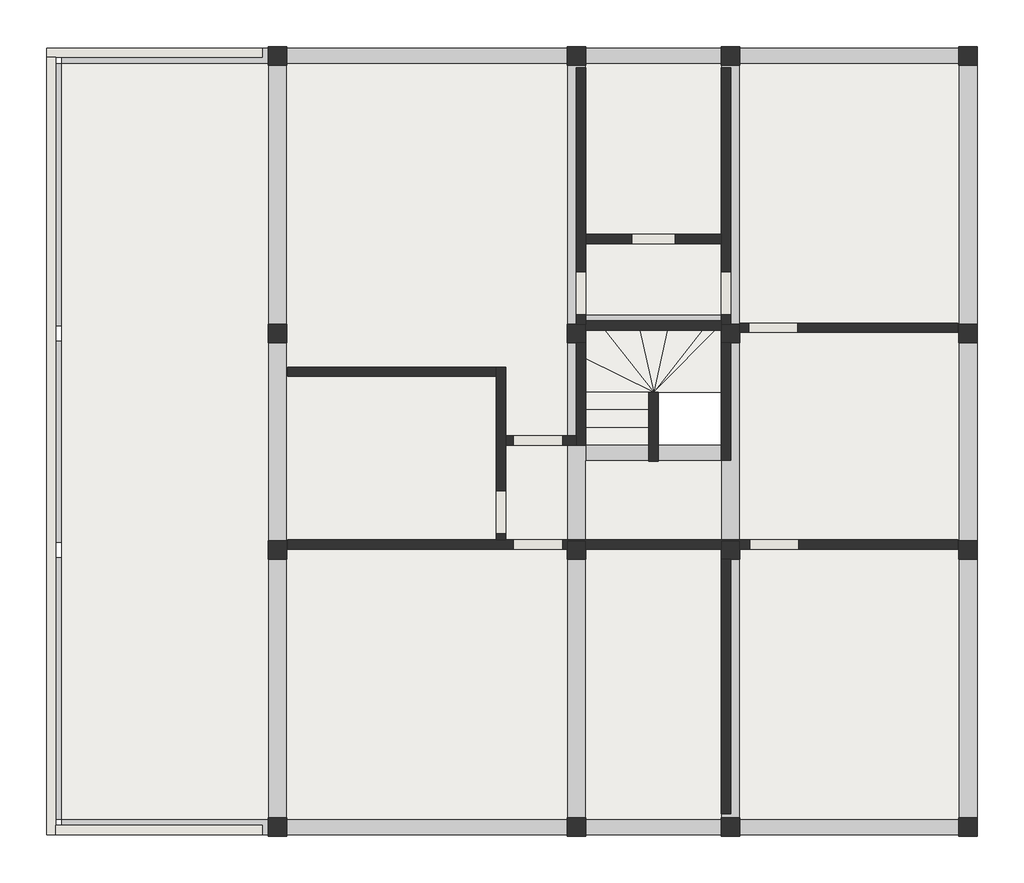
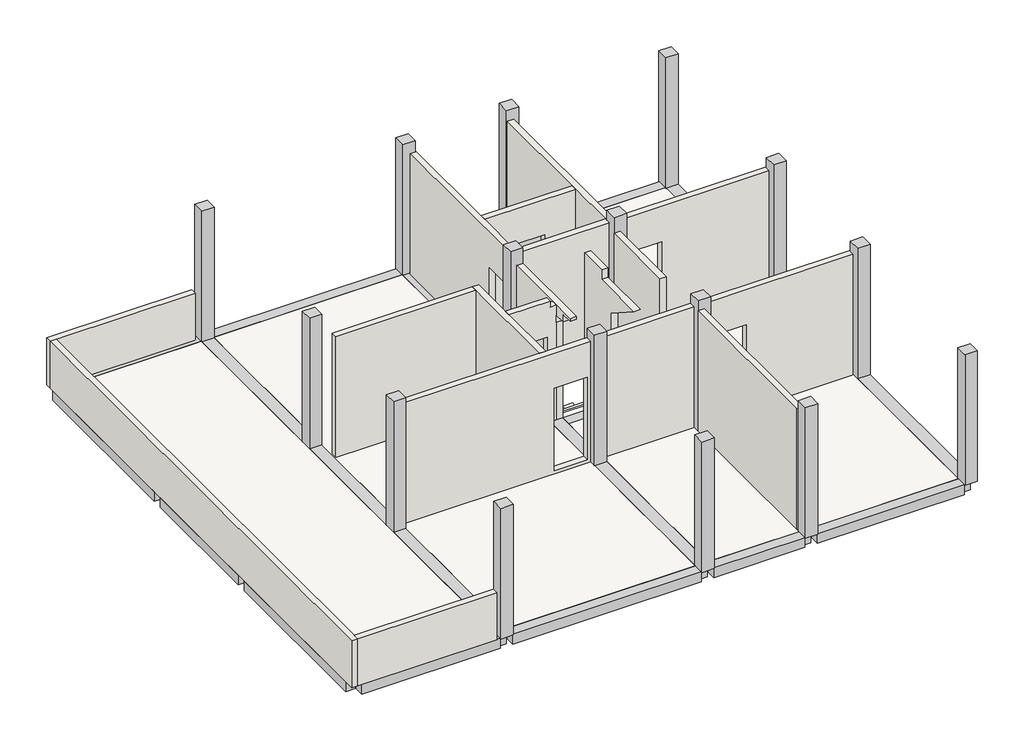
# One storey: 25 beams, 16 columns, 15 walls, 8 slabs.
"""IFC4 building model written with IfcOpenShell, lengths in millimetres."""

import ifcopenshell
import ifcopenshell.guid

model = None  # the IFC model being written
_history = None  # IfcOwnerHistory: only IFC2X3 demands one
_inside = {}  # id of a spatial element -> (the spatial element, [elements in it])
_under = {}  # id of a project, library or spatial element -> (it, [spatial elements below it])
_declared = {}  # id of a project -> (the project, [libraries it declares])
_typed = {}  # id of a type object -> (the type object, [elements of that type])
_made_of = {}  # id of a material, layer set ... -> (it, [elements and type objects made of it])


def new_model(schema):
    """Start an empty IFC model of exactly this schema.

    Asked for "IFC4X3", IfcOpenShell would pick the latest addendum, in which some entities
    have other attributes; the version numbers below select the first issue.
    IFC2X3 requires an IfcOwnerHistory on every rooted entity: one is made here for all.
    """
    global model, _history
    if schema == "IFC4X3":
        model = ifcopenshell.file(schema_version=(4, 3, 0, 0))
    else:
        model = ifcopenshell.file(schema=schema)
    _inside.clear()
    _under.clear()
    _declared.clear()
    _typed.clear()
    _made_of.clear()
    _history = None
    if model.schema == "IFC2X3":
        org = make("IfcOrganization", Name="unknown")
        user = make(
            "IfcPersonAndOrganization",
            ThePerson=make("IfcPerson", FamilyName="unknown"),
            TheOrganization=org,
        )
        app = make(
            "IfcApplication",
            ApplicationDeveloper=org,
            Version="unknown",
            ApplicationFullName="unknown",
            ApplicationIdentifier="unknown",
        )
        _history = make(
            "IfcOwnerHistory",
            OwningUser=user,
            OwningApplication=app,
            ChangeAction="ADDED",
            CreationDate=0,
        )
    return model


def make(cls, **values):
    """One entity of the class cls with the attributes given. An attribute that is None is left unset."""
    return model.create_entity(
        cls, **{name: value for name, value in values.items() if value is not None}
    )


def rooted(cls, **values):
    """An entity with a GlobalId (a new one), such as an element, a storey or a relation."""
    return make(cls, GlobalId=ifcopenshell.guid.new(), OwnerHistory=_history, **values)


def si_unit(unit_type, name, prefix=None):
    """IfcSIUnit, for example si_unit("LENGTHUNIT", "METRE", prefix="MILLI")."""
    return make("IfcSIUnit", UnitType=unit_type, Prefix=prefix, Name=name)


def assignment(units):
    """IfcUnitAssignment: the units of a project."""
    return None if units is None else make("IfcUnitAssignment", Units=units)


def point(xyz):
    """IfcCartesianPoint."""
    return None if xyz is None else make("IfcCartesianPoint", Coordinates=xyz)


def direction(xyz):
    """IfcDirection."""
    return None if xyz is None else make("IfcDirection", DirectionRatios=xyz)


def frame(location, z_axis=None, x_axis=None):
    """IfcAxis2Placement3D, a coordinate frame: its origin and axes. An axis left out is left unset."""
    return make(
        "IfcAxis2Placement3D",
        Location=point(location),
        Axis=direction(z_axis),
        RefDirection=direction(x_axis),
    )


def origin():
    """The frame at (0, 0, 0) with its axes left unset."""
    return frame((0.0, 0.0, 0.0))


def place(relative_to, where):
    """IfcLocalPlacement: puts the frame where relative to a parent placement (None: the world)."""
    return make(
        "IfcLocalPlacement", PlacementRelTo=relative_to, RelativePlacement=where
    )


def context(
    kind, dimensions, precision=None, world=None, true_north=None, identifier=None
):
    """IfcGeometricRepresentationContext, for example the 3D "Model" context."""
    return make(
        "IfcGeometricRepresentationContext",
        ContextIdentifier=identifier,
        ContextType=kind,
        CoordinateSpaceDimension=dimensions,
        Precision=precision,
        WorldCoordinateSystem=world,
        TrueNorth=true_north,
    )


def project(units=None, contexts=None):
    """IfcProject with its units and contexts."""
    return rooted(
        "IfcProject",
        Name="project",
        RepresentationContexts=contexts,
        UnitsInContext=assignment(units),
    )


def spatial(cls, under=None, at=None, **own):
    """A site, building, storey or space (cls), placed at a placement, below another one or the project."""
    s = rooted(cls, ObjectPlacement=at, **own)
    if under is not None:
        _under.setdefault(under.id(), (under, []))[1].append(s)
    return s


def polyline(points):
    """IfcPolyline through the points."""
    return make("IfcPolyline", Points=[point(p) for p in points])


def outline(outer, holes=None, kind="AREA"):
    """IfcArbitraryClosedProfileDef: a profile drawn as a closed curve; with holes, ...WithVoids."""
    if holes is None:
        return make("IfcArbitraryClosedProfileDef", ProfileType=kind, OuterCurve=outer)
    return make(
        "IfcArbitraryProfileDefWithVoids",
        ProfileType=kind,
        OuterCurve=outer,
        InnerCurves=holes,
    )


def extrude(swept, where, along, depth):
    """IfcExtrudedAreaSolid: the profile swept, set in the frame where, extruded along a direction by depth."""
    return make(
        "IfcExtrudedAreaSolid",
        SweptArea=swept,
        Position=where,
        ExtrudedDirection=direction(along),
        Depth=depth,
    )


def faces_of(points, faces, orient=None, outer=None):
    """IfcFace entities. A face is a list of loops; a loop is a list of indices into points, from 0.

    orient and outer hold one flag for each loop. By default every Orientation is true, the
    first loop of a face is its IfcFaceOuterBound and the others are IfcFaceBound.
    """
    made = []
    for i, loops in enumerate(faces):
        bounds = []
        for j, loop in enumerate(loops):
            is_outer = j == 0 if outer is None else outer[i][j]
            bounds.append(
                make(
                    "IfcFaceOuterBound" if is_outer else "IfcFaceBound",
                    Bound=make("IfcPolyLoop", Polygon=[points[k] for k in loop]),
                    Orientation=True if orient is None else orient[i][j],
                )
            )
        made.append(make("IfcFace", Bounds=bounds))
    return made


def faceted_brep(points, faces, orient=None, outer=None, voids=None):
    """IfcFacetedBrep: a solid bounded by flat faces; with voids (closed shells), ...WithVoids."""
    shared = [point(p) for p in points]
    hull = make("IfcClosedShell", CfsFaces=faces_of(shared, faces, orient, outer))
    if voids is None:
        return make("IfcFacetedBrep", Outer=hull)
    return make(
        "IfcFacetedBrepWithVoids",
        Outer=hull,
        Voids=[
            make(cls, CfsFaces=faces_of(shared, fs, o, b)) for cls, fs, o, b in voids
        ],
    )


def shape(context_of_items, identifier, shape_type, items):
    """IfcShapeRepresentation: the items that make up one representation, for example the "Body"."""
    return make(
        "IfcShapeRepresentation",
        ContextOfItems=context_of_items,
        RepresentationIdentifier=identifier,
        RepresentationType=shape_type,
        Items=items,
    )


def source(mapping_origin, context_of_items, identifier, shape_type, items):
    """IfcRepresentationMap: a shape defined once, which mapped items show again and again."""
    return make(
        "IfcRepresentationMap",
        MappingOrigin=mapping_origin,
        MappedRepresentation=shape(context_of_items, identifier, shape_type, items),
    )


def transform(
    local_origin,
    x_axis=None,
    y_axis=None,
    z_axis=None,
    scale=None,
    scale2=None,
    scale3=None,
    uniform=True,
):
    """IfcCartesianTransformationOperator3D, or its non-uniform kind. x_axis, y_axis, z_axis: its Axis1, 2, 3."""
    if uniform:
        return make(
            "IfcCartesianTransformationOperator3D",
            Axis1=direction(x_axis),
            Axis2=direction(y_axis),
            LocalOrigin=point(local_origin),
            Scale=scale,
            Axis3=direction(z_axis),
        )
    return make(
        "IfcCartesianTransformationOperator3DnonUniform",
        Axis1=direction(x_axis),
        Axis2=direction(y_axis),
        LocalOrigin=point(local_origin),
        Scale=scale,
        Axis3=direction(z_axis),
        Scale2=scale2,
        Scale3=scale3,
    )


def mapped(mapping_source, mapping_target):
    """IfcMappedItem: shows the shape of a source again, moved by a transform."""
    return make(
        "IfcMappedItem", MappingSource=mapping_source, MappingTarget=mapping_target
    )


def made_of(thing, what):
    """Note that an element or type object is made of a material, layer set ...; save() writes the relation."""
    if what is not None:
        _made_of.setdefault(what.id(), (what, []))[1].append(thing)
    return thing


def element(
    cls,
    number,
    at=None,
    inside=None,
    cuts=None,
    type_object=None,
    material=None,
    context=None,
    identifier="Body",
    shape_type=None,
    held_by="IfcProductDefinitionShape",
    body=None,
    shapes=None,
    **own,
):
    """One element of the class cls, such as IfcWall. Its Tag is "e" and its number.

    at: its placement. inside: the storey or other place that contains it. cuts: it is an
    opening in that element (IfcRelVoidsElement). A single representation is given by context,
    identifier, shape_type and body (its items); several are given by shapes. held_by: the class
    of the entity that holds the representations. save() writes the other relations.
    """
    e = rooted(cls, Tag="e%d" % number, ObjectPlacement=at, **own)
    if body is not None:
        shapes = [shape(context, identifier, shape_type, body)]
    if shapes is not None:
        e.Representation = make(held_by, Representations=shapes)
    if inside is not None:
        _inside.setdefault(inside.id(), (inside, []))[1].append(e)
    if cuts is not None:
        rooted(
            "IfcRelVoidsElement", RelatingBuildingElement=cuts, RelatedOpeningElement=e
        )
    if type_object is not None:
        _typed.setdefault(type_object.id(), (type_object, []))[1].append(e)
    return made_of(e, material)


def aggregate(whole, parts):
    """IfcRelAggregates: a whole, such as a stair, and the parts it consists of."""
    return rooted("IfcRelAggregates", RelatingObject=whole, RelatedObjects=parts)


def save(model, path):
    """Write the relations noted so far, then the file.

    IfcRelAggregates (storeys below a building ...), IfcRelContainedInSpatialStructure (elements
    in a storey), IfcRelDefinesByType, IfcRelAssociatesMaterial and IfcRelDeclares: one each for
    every whole, place, type object, material and project.
    """
    for whole, parts in _under.values():
        aggregate(whole, parts)
    for where, things in _inside.values():
        rooted(
            "IfcRelContainedInSpatialStructure",
            RelatedElements=things,
            RelatingStructure=where,
        )
    for kind, things in _typed.values():
        rooted("IfcRelDefinesByType", RelatedObjects=things, RelatingType=kind)
    for what, things in _made_of.values():
        rooted("IfcRelAssociatesMaterial", RelatedObjects=things, RelatingMaterial=what)
    for by, libraries in _declared.values():
        rooted("IfcRelDeclares", RelatingContext=by, RelatedDefinitions=libraries)
    model.write(path)


def slab_d0d15f66(model_context):
    return source(origin(), model_context, "Body", "SweptSolid", [
        extrude(outline(polyline([(9215.0, 7645.5172414), (9215.0, 8185.5172414), (10314.0698338, 7644.0656057), (9215.0, 7645.5172414)])), frame((0.0, 0.0, 2605.0811641), z_axis=(0.0, 0.0, 1.0), x_axis=(1.0, 0.0, 0.0)), (0.0, 0.0, 1.0), 185.0),
        extrude(outline(polyline([(9522.5030455, 8653.9378049), (10314.0698338, 7644.0656057), (9215.0, 8185.5172414), (9215.0, 8653.9378049), (9522.5030455, 8653.9378049)])), frame((0.0, 0.0, 2420.0811641), z_axis=(0.0, 0.0, 1.0), x_axis=(1.0, 0.0, 0.0)), (0.0, 0.0, 1.0), 185.0),
        extrude(outline(polyline([(9522.5030455, 8653.9378049), (10091.9400865, 8653.9378049), (10314.0698338, 7644.0656057), (9522.5030455, 8653.9378049)])), frame((0.0, 0.0, 2235.0811641), z_axis=(0.0, 0.0, 1.0), x_axis=(1.0, 0.0, 0.0)), (0.0, 0.0, 1.0), 185.0),
        extrude(outline(polyline([(10091.9400865, 8653.9378049), (10538.0599135, 8653.9378049), (10314.0698338, 7644.0656057), (10091.9400865, 8653.9378049)])), frame((0.0, 0.0, 2050.0811641), z_axis=(0.0, 0.0, 1.0), x_axis=(1.0, 0.0, 0.0)), (0.0, 0.0, 1.0), 185.0),
        extrude(outline(polyline([(10538.0599135, 8653.9378049), (11107.4969545, 8653.9378049), (10314.0698338, 7644.0656057), (10538.0599135, 8653.9378049)])), frame((0.0, 0.0, 1865.0811641), z_axis=(0.0, 0.0, 1.0), x_axis=(1.0, 0.0, 0.0)), (0.0, 0.0, 1.0), 185.0),
        extrude(outline(polyline([(11415.0, 8653.9378049), (11415.0, 8183.9378049), (10314.0698338, 7644.0656057), (11107.4969545, 8653.9378049), (11415.0, 8653.9378049)])), frame((0.0, 0.0, 1495.0811641), z_axis=(0.0, 0.0, 1.0), x_axis=(1.0, 0.0, 0.0)), (0.0, 0.0, 1.0), 370.0),
        extrude(outline(polyline([(11415.0, 8183.9378049), (11415.0, 7644.0656057), (10314.0698338, 7644.0656057), (11415.0, 8183.9378049)])), frame((0.0, 0.0, 1495.0811641), z_axis=(0.0, 0.0, 1.0), x_axis=(1.0, 0.0, 0.0)), (0.0, 0.0, 1.0), 185.0),
    ])


def losa_escalera_3_losa_escalera_2_57cf70de(model_context):
    return source(origin(), model_context, "Body", "SweptSolid", [
        extrude(outline(polyline([(11415.0, 7644.0656057), (10314.0698338, 7644.0656057), (11415.0, 8750.0), (11415.0, 7644.0656057)])), frame((0.0, 0.0, 1309.8801816), z_axis=(0.0, 0.0, 1.0), x_axis=(1.0, 0.0, 0.0)), (0.0, 0.0, 1.0), 187.6550161),
    ])


def escalera_tramo_2_escalera_tramo_2_fa0a149b(model_context):
    return source(origin(), model_context, "Body", "SweptSolid", [
        extrude(outline(polyline([(7644.0656057, 2975.0811641), (7644.0656057, 2605.0811641), (6790.0, 3199.3498377), (6790.0, 3345.0811641), (7074.0656057, 3345.0811641), (7074.0656057, 3160.0811641), (7359.0656057, 3160.0811641), (7359.0656057, 2975.0811641), (7644.0656057, 2975.0811641)])), frame((9215.0, 0.0, 0.0), z_axis=(1.0, 0.0, 0.0), x_axis=(0.0, 1.0, 0.0)), (0.0, 0.0, 1.0), 1025.0),
    ])


model = new_model("IFC4")

# Units and contexts
model_context = context("Model", 3, world=origin())
ifc_project = project(units=[si_unit("LENGTHUNIT", "METRE", prefix="MILLI")], contexts=[model_context])

# Site, building, storey
site = spatial("IfcSite", under=ifc_project)
building = spatial("IfcBuilding", under=site)
storey = spatial("IfcBuildingStorey", under=building, Name="02.ES.PLANTA PRIMERA", Elevation=3450.0)

# Beams
placement = place(None, origin())
element("IfcBeam", 1, ObjectType="Hormigón-Viga rectangular : 250 x 250 mm", at=placement, inside=storey, context=model_context, shape_type="SweptSolid", body=[
    extrude(outline(polyline([(475.0, 4965.0610844), (725.0, 4965.0610844), (725.0, 725.0), (475.0, 725.0), (475.0, 4965.0610844)])), frame((0.0, 0.0, 3200.0), z_axis=(0.0, 0.0, 1.0), x_axis=(1.0, 0.0, 0.0)), (0.0, 0.0, 1.0), 250.0),
])
element("IfcBeam", 2, ObjectType="Hormigón-Viga rectangular : 250 x 250 mm", at=placement, inside=storey, context=model_context, shape_type="SweptSolid", body=[
    extrude(outline(polyline([(475.0, 8475.0), (725.0, 8475.0), (725.0, 5215.0610844), (475.0, 5215.0610844), (475.0, 8475.0)])), frame((0.0, 0.0, 3200.0), z_axis=(0.0, 0.0, 1.0), x_axis=(1.0, 0.0, 0.0)), (0.0, 0.0, 1.0), 250.0),
])
element("IfcBeam", 3, ObjectType="Hormigón-Viga rectangular : 250 x 250 mm", at=placement, inside=storey, context=model_context, shape_type="SweptSolid", body=[
    extrude(outline(polyline([(475.0, 12975.0), (725.0, 12975.0), (725.0, 8725.0), (475.0, 8725.0), (475.0, 12975.0)])), frame((0.0, 0.0, 3200.0), z_axis=(0.0, 0.0, 1.0), x_axis=(1.0, 0.0, 0.0)), (0.0, 0.0, 1.0), 250.0),
])
element("IfcBeam", 4, ObjectType="Hormigón-Viga rectangular : 250 x 250 mm", at=placement, inside=storey, context=model_context, shape_type="SweptSolid", body=[
    extrude(outline(polyline([(4065.0, 13225.0), (4065.0, 12975.0), (725.0, 12975.0), (725.0, 13225.0), (4065.0, 13225.0)])), frame((0.0, 0.0, 3200.0), z_axis=(0.0, 0.0, 1.0), x_axis=(1.0, 0.0, 0.0)), (0.0, 0.0, 1.0), 250.0),
])
element("IfcBeam", 5, ObjectType="Hormigón-Viga rectangular : 250 x 250 mm", at=placement, inside=storey, context=model_context, shape_type="SweptSolid", body=[
    extrude(outline(polyline([(8915.0, 13225.0), (8915.0, 12975.0), (4365.0, 12975.0), (4365.0, 13225.0), (8915.0, 13225.0)])), frame((0.0, 0.0, 3200.0), z_axis=(0.0, 0.0, 1.0), x_axis=(1.0, 0.0, 0.0)), (0.0, 0.0, 1.0), 250.0),
])
element("IfcBeam", 6, ObjectType="Hormigón-Viga rectangular : 250 x 250 mm", at=placement, inside=storey, context=model_context, shape_type="SweptSolid", body=[
    extrude(outline(polyline([(11415.0, 13225.0), (11415.0, 12975.0), (9215.0, 12975.0), (9215.0, 13225.0), (11415.0, 13225.0)])), frame((0.0, 0.0, 3200.0), z_axis=(0.0, 0.0, 1.0), x_axis=(1.0, 0.0, 0.0)), (0.0, 0.0, 1.0), 250.0),
])
element("IfcBeam", 7, ObjectType="Hormigón-Viga rectangular : 250 x 250 mm", at=placement, inside=storey, context=model_context, shape_type="SweptSolid", body=[
    extrude(outline(polyline([(15265.0, 13225.0), (15265.0, 12975.0), (11715.0, 12975.0), (11715.0, 13225.0), (15265.0, 13225.0)])), frame((0.0, 0.0, 3200.0), z_axis=(0.0, 0.0, 1.0), x_axis=(1.0, 0.0, 0.0)), (0.0, 0.0, 1.0), 250.0),
])
element("IfcBeam", 8, ObjectType="Hormigón-Viga rectangular : 250 x 250 mm", at=placement, inside=storey, context=model_context, shape_type="SweptSolid", body=[
    extrude(outline(polyline([(4065.0, 725.0), (4065.0, 475.0), (725.0, 475.0), (725.0, 725.0), (4065.0, 725.0)])), frame((0.0, 0.0, 3200.0), z_axis=(0.0, 0.0, 1.0), x_axis=(1.0, 0.0, 0.0)), (0.0, 0.0, 1.0), 250.0),
])
element("IfcBeam", 9, ObjectType="Hormigón-Viga rectangular : 250 x 250 mm", at=placement, inside=storey, context=model_context, shape_type="SweptSolid", body=[
    extrude(outline(polyline([(8915.0, 725.0), (8915.0, 475.0), (4365.0, 475.0), (4365.0, 725.0), (8915.0, 725.0)])), frame((0.0, 0.0, 3200.0), z_axis=(0.0, 0.0, 1.0), x_axis=(1.0, 0.0, 0.0)), (0.0, 0.0, 1.0), 250.0),
])
element("IfcBeam", 10, ObjectType="Hormigón-Viga rectangular : 250 x 250 mm", at=placement, inside=storey, context=model_context, shape_type="SweptSolid", body=[
    extrude(outline(polyline([(11415.0, 725.0), (11415.0, 475.0), (9215.0, 475.0), (9215.0, 725.0), (11415.0, 725.0)])), frame((0.0, 0.0, 3200.0), z_axis=(0.0, 0.0, 1.0), x_axis=(1.0, 0.0, 0.0)), (0.0, 0.0, 1.0), 250.0),
])
element("IfcBeam", 11, ObjectType="Hormigón-Viga rectangular : 250 x 250 mm", at=placement, inside=storey, context=model_context, shape_type="SweptSolid", body=[
    extrude(outline(polyline([(15265.0, 725.0), (15265.0, 475.0), (11715.0, 475.0), (11715.0, 725.0), (15265.0, 725.0)])), frame((0.0, 0.0, 3200.0), z_axis=(0.0, 0.0, 1.0), x_axis=(1.0, 0.0, 0.0)), (0.0, 0.0, 1.0), 250.0),
])
element("IfcBeam", 12, ObjectType="Hormigón-Viga rectangular : 250 x 250 mm", at=placement, inside=storey, context=model_context, shape_type="Brep", body=[
    faceted_brep([(9215.0, 6790.0, 3450.0), (9215.0, 6540.0, 3450.0), (10240.0, 6540.0, 3450.0), (10390.0, 6540.0, 3450.0), (11415.0, 6540.0, 3450.0), (11415.0, 6790.0, 3450.0), (10390.0, 6790.0, 3450.0), (10240.0, 6790.0, 3450.0), (9215.0, 6540.0, 3200.0), (10240.0, 6540.0, 3200.0), (10390.0, 6540.0, 3200.0), (11415.0, 6540.0, 3200.0), (9215.0, 6790.0, 3200.0), (10240.0, 6790.0, 3200.0), (10390.0, 6790.0, 3200.0), (11415.0, 6790.0, 3200.0)], [[[0, 1, 2, 3, 4, 5, 6, 7]], [[1, 8, 9, 10, 11, 4, 3, 2]], [[8, 12, 13, 14, 15, 11, 10, 9]], [[12, 0, 7, 6, 5, 15, 14, 13]], [[1, 0, 12, 8]], [[5, 4, 11, 15]]]),
])
element("IfcBeam", 13, ObjectType="Hormigón-Viga rectangular : 250 x 250 mm", at=placement, inside=storey, context=model_context, shape_type="Brep", body=[
    faceted_brep([(11415.0, 8655.0, 3450.0), (11415.0, 8750.0, 3450.0), (11415.0, 8905.0, 3450.0), (9215.0, 8905.0, 3450.0), (9215.0, 8750.0, 3450.0), (9215.0, 8655.0, 3450.0), (11415.0, 8655.0, 3200.0), (9215.0, 8655.0, 3200.0), (11415.0, 8905.0, 3200.0), (9215.0, 8905.0, 3200.0)], [[[0, 1, 2, 3, 4, 5]], [[6, 0, 5, 7]], [[8, 6, 7, 9]], [[2, 8, 9, 3]], [[3, 9, 7, 5, 4]], [[2, 1, 0, 6, 8]]]),
])
element("IfcBeam", 14, ObjectType="Hormigón-Viga rectangular : 300 x 400 mm", at=placement, inside=storey, context=model_context, shape_type="Brep", body=[
    faceted_brep([(4365.0, 4940.0610844, 3450.0), (4065.0, 4940.0610844, 3450.0), (4065.0, 750.0, 3450.0), (4365.0, 750.0, 3450.0), (4365.0, 4940.0610844, 3050.0), (4365.0, 750.0, 3050.0), (4365.0, 815.0, 3050.0), (4065.0, 4940.0610844, 3050.0), (4065.0, 750.0, 3050.0), (4065.0, 815.0, 3050.0)], [[[0, 1, 2, 3]], [[4, 0, 3, 5, 6]], [[7, 4, 6, 5, 8, 9]], [[1, 7, 9, 8, 2]], [[1, 0, 4, 7]], [[3, 2, 8, 5]]]),
])
element("IfcBeam", 15, ObjectType="Hormigón-Viga rectangular : 300 x 400 mm", at=placement, inside=storey, context=model_context, shape_type="SweptSolid", body=[
    extrude(outline(polyline([(4065.0, 8450.0), (4365.0, 8450.0), (4365.0, 5240.0610844), (4065.0, 5240.0610844), (4065.0, 8450.0)])), frame((0.0, 0.0, 3050.0), z_axis=(0.0, 0.0, 1.0), x_axis=(1.0, 0.0, 0.0)), (0.0, 0.0, 1.0), 400.0),
])
element("IfcBeam", 16, ObjectType="Hormigón-Viga rectangular : 300 x 400 mm", at=placement, inside=storey, context=model_context, shape_type="SweptSolid", body=[
    extrude(outline(polyline([(4065.0, 12950.0), (4365.0, 12950.0), (4365.0, 8750.0), (4065.0, 8750.0), (4065.0, 12950.0)])), frame((0.0, 0.0, 3050.0), z_axis=(0.0, 0.0, 1.0), x_axis=(1.0, 0.0, 0.0)), (0.0, 0.0, 1.0), 400.0),
])
element("IfcBeam", 17, ObjectType="Hormigón-Viga rectangular : 300 x 400 mm", at=placement, inside=storey, context=model_context, shape_type="Brep", body=[
    faceted_brep([(9215.0, 4940.0610844, 3450.0), (8915.0, 4940.0610844, 3450.0), (8915.0, 750.0, 3450.0), (9215.0, 750.0, 3450.0), (9215.0, 4940.0610844, 3050.0), (9215.0, 750.0, 3050.0), (9215.0, 815.0, 3050.0), (8915.0, 4940.0610844, 3050.0), (9080.0, 4940.0610844, 3050.0), (8915.0, 750.0, 3050.0)], [[[0, 1, 2, 3]], [[4, 0, 3, 5, 6]], [[7, 8, 4, 6, 5, 9]], [[1, 7, 9, 2]], [[1, 0, 4, 8, 7]], [[3, 2, 9, 5]]]),
])
element("IfcBeam", 18, ObjectType="Hormigón-Viga rectangular : 300 x 400 mm", at=placement, inside=storey, context=model_context, shape_type="Brep", body=[
    faceted_brep([(9215.0, 8450.0, 3450.0), (8915.0, 8450.0, 3450.0), (8915.0, 5240.0610844, 3450.0), (9215.0, 5240.0610844, 3450.0), (9215.0, 6540.0, 3450.0), (9215.0, 6790.0, 3450.0), (9215.0, 8450.0, 3050.0), (9215.0, 5240.0610844, 3050.0), (8915.0, 8450.0, 3050.0), (9080.0, 8450.0, 3050.0), (9080.0, 5240.0610844, 3050.0), (8915.0, 5240.0610844, 3050.0)], [[[0, 1, 2, 3, 4, 5]], [[6, 0, 5, 4, 3, 7]], [[8, 9, 6, 7, 10, 11]], [[1, 8, 11, 2]], [[1, 0, 6, 9, 8]], [[3, 2, 11, 10, 7]]]),
])
element("IfcBeam", 19, ObjectType="Hormigón-Viga rectangular : 300 x 400 mm", at=placement, inside=storey, context=model_context, shape_type="Brep", body=[
    faceted_brep([(9215.0, 12950.0, 3450.0), (8915.0, 12950.0, 3450.0), (8915.0, 8750.0, 3450.0), (9215.0, 8750.0, 3450.0), (9215.0, 8905.0, 3450.0), (9215.0, 12950.0, 3050.0), (9215.0, 8750.0, 3050.0), (9215.0, 12906.5177396, 3050.0), (8915.0, 12950.0, 3050.0), (9080.0, 8750.0, 3050.0), (8915.0, 8750.0, 3050.0)], [[[0, 1, 2, 3, 4]], [[5, 0, 4, 3, 6, 7]], [[8, 5, 7, 6, 9, 10]], [[1, 8, 10, 2]], [[1, 0, 5, 8]], [[3, 2, 10, 9, 6]]]),
])
element("IfcBeam", 20, ObjectType="Hormigón-Viga rectangular : 300 x 400 mm", at=placement, inside=storey, context=model_context, shape_type="Brep", body=[
    faceted_brep([(11715.0, 4940.0610844, 3450.0), (11415.0, 4940.0610844, 3450.0), (11415.0, 750.0, 3450.0), (11715.0, 750.0, 3450.0), (11715.0, 4940.0610844, 3050.0), (11715.0, 750.0, 3050.0), (11415.0, 4940.0610844, 3050.0), (11550.0, 4940.0610844, 3050.0), (11415.0, 750.0, 3050.0), (11415.0, 815.0, 3050.0)], [[[0, 1, 2, 3]], [[4, 0, 3, 5]], [[6, 7, 4, 5, 8, 9]], [[1, 6, 9, 8, 2]], [[1, 0, 4, 7, 6]], [[3, 2, 8, 5]]]),
])
element("IfcBeam", 21, ObjectType="Hormigón-Viga rectangular : 300 x 400 mm", at=placement, inside=storey, context=model_context, shape_type="Brep", body=[
    faceted_brep([(11715.0, 8450.0, 3450.0), (11415.0, 8450.0, 3450.0), (11415.0, 6790.0, 3450.0), (11415.0, 6540.0, 3450.0), (11415.0, 5240.0610844, 3450.0), (11715.0, 5240.0610844, 3450.0), (11715.0, 8450.0, 3050.0), (11715.0, 5240.0610844, 3050.0), (11415.0, 8450.0, 3050.0), (11550.0, 8450.0, 3050.0), (11550.0, 5240.0610844, 3050.0), (11415.0, 5240.0610844, 3050.0)], [[[0, 1, 2, 3, 4, 5]], [[6, 0, 5, 7]], [[8, 9, 6, 7, 10, 11]], [[1, 8, 11, 4, 3, 2]], [[1, 0, 6, 9, 8]], [[5, 4, 11, 10, 7]]]),
])
element("IfcBeam", 22, ObjectType="Hormigón-Viga rectangular : 300 x 400 mm", at=placement, inside=storey, context=model_context, shape_type="Brep", body=[
    faceted_brep([(11715.0, 12950.0, 3450.0), (11415.0, 12950.0, 3450.0), (11415.0, 8905.0, 3450.0), (11415.0, 8750.0, 3450.0), (11715.0, 8750.0, 3450.0), (11715.0, 12950.0, 3050.0), (11715.0, 8750.0, 3050.0), (11415.0, 12950.0, 3050.0), (11550.0, 8750.0, 3050.0), (11415.0, 8750.0, 3050.0), (11415.0, 12906.5177396, 3050.0)], [[[0, 1, 2, 3, 4]], [[5, 0, 4, 6]], [[7, 5, 6, 8, 9, 10]], [[1, 7, 10, 9, 3, 2]], [[1, 0, 5, 7]], [[4, 3, 9, 8, 6]]]),
])
element("IfcBeam", 23, ObjectType="Hormigón-Viga rectangular : 300 x 400 mm", at=placement, inside=storey, context=model_context, shape_type="Brep", body=[
    faceted_brep([(15565.0, 4940.0610844, 3450.0), (15265.0, 4940.0610844, 3450.0), (15265.0, 750.0, 3450.0), (15565.0, 750.0, 3450.0), (15565.0, 815.0, 3450.0), (15565.0, 4940.0610844, 3050.0), (15565.0, 750.0, 3050.0), (15565.0, 815.0, 3050.0), (15265.0, 4940.0610844, 3050.0), (15265.0, 750.0, 3050.0), (15265.0, 815.0, 3050.0)], [[[0, 1, 2, 3, 4]], [[5, 0, 4, 3, 6, 7]], [[8, 5, 7, 6, 9, 10]], [[1, 8, 10, 9, 2]], [[1, 0, 5, 8]], [[3, 2, 9, 6]]]),
])
element("IfcBeam", 24, ObjectType="Hormigón-Viga rectangular : 300 x 400 mm", at=placement, inside=storey, context=model_context, shape_type="SweptSolid", body=[
    extrude(outline(polyline([(15265.0, 8450.0), (15565.0, 8450.0), (15565.0, 5240.0610844), (15265.0, 5240.0610844), (15265.0, 8450.0)])), frame((0.0, 0.0, 3050.0), z_axis=(0.0, 0.0, 1.0), x_axis=(1.0, 0.0, 0.0)), (0.0, 0.0, 1.0), 400.0),
])
element("IfcBeam", 25, ObjectType="Hormigón-Viga rectangular : 300 x 400 mm", at=placement, inside=storey, context=model_context, shape_type="SweptSolid", body=[
    extrude(outline(polyline([(15265.0, 12950.0), (15565.0, 12950.0), (15565.0, 8750.0), (15265.0, 8750.0), (15265.0, 12950.0)])), frame((0.0, 0.0, 3050.0), z_axis=(0.0, 0.0, 1.0), x_axis=(1.0, 0.0, 0.0)), (0.0, 0.0, 1.0), 400.0),
])

# Columns
element("IfcColumn", 26, ObjectType="Pilar rectangular hormigón : 300 x 300 mm", at=placement, inside=storey, context=model_context, shape_type="Brep", body=[
    faceted_brep([(4365.0, 13250.0, 6780.0), (4065.0, 13250.0, 6780.0), (4065.0, 12950.0, 6780.0), (4365.0, 12950.0, 6780.0), (4365.0, 13250.0, 3450.0), (4365.0, 12975.0, 3450.0), (4365.0, 12950.0, 3450.0), (4065.0, 12950.0, 3450.0), (4065.0, 12975.0, 3450.0), (4065.0, 13250.0, 3450.0), (4365.0, 12950.0, 6530.0)], [[[0, 1, 2, 3]], [[4, 5, 6, 7, 8, 9]], [[1, 0, 4, 9]], [[2, 1, 9, 8, 7]], [[3, 2, 7, 6, 10]], [[0, 3, 10, 6, 5, 4]]]),
])
element("IfcColumn", 27, ObjectType="Pilar rectangular hormigón : 300 x 300 mm", at=placement, inside=storey, context=model_context, shape_type="Brep", body=[
    faceted_brep([(9215.0, 13250.0, 6780.0), (8915.0, 13250.0, 6780.0), (8915.0, 12950.0, 6780.0), (9215.0, 12950.0, 6780.0), (9215.0, 12975.0, 6780.0), (9215.0, 13250.0, 3450.0), (9215.0, 12950.0, 3450.0), (8915.0, 12950.0, 3450.0), (8915.0, 13250.0, 3450.0), (8915.0, 12950.0, 6530.0), (9215.0, 12950.0, 6530.0)], [[[0, 1, 2, 3, 4]], [[5, 6, 7, 8]], [[1, 0, 5, 8]], [[2, 1, 8, 7, 9]], [[3, 2, 9, 7, 6, 10]], [[0, 4, 3, 10, 6, 5]]]),
])
element("IfcColumn", 28, ObjectType="Pilar rectangular hormigón : 300 x 300 mm", at=placement, inside=storey, context=model_context, shape_type="Brep", body=[
    faceted_brep([(11715.0, 13250.0, 6780.0), (11415.0, 13250.0, 6780.0), (11415.0, 12975.0, 6780.0), (11415.0, 12950.0, 6780.0), (11715.0, 12950.0, 6780.0), (11715.0, 13225.0, 6780.0), (11715.0, 13250.0, 3450.0), (11715.0, 13225.0, 3450.0), (11715.0, 12950.0, 3450.0), (11415.0, 12950.0, 3450.0), (11415.0, 13250.0, 3450.0), (11415.0, 12950.0, 6530.0), (11715.0, 12950.0, 6530.0)], [[[0, 1, 2, 3, 4, 5]], [[6, 7, 8, 9, 10]], [[1, 0, 6, 10]], [[3, 2, 1, 10, 9, 11]], [[4, 3, 11, 9, 8, 12]], [[0, 5, 4, 12, 8, 7, 6]]]),
])
element("IfcColumn", 29, ObjectType="Pilar rectangular hormigón : 300 x 300 mm", at=placement, inside=storey, context=model_context, shape_type="Brep", body=[
    faceted_brep([(15565.0, 13250.0, 6780.0), (15265.0, 13250.0, 6780.0), (15265.0, 13225.0, 6780.0), (15265.0, 12950.0, 6780.0), (15565.0, 12950.0, 6780.0), (15565.0, 13250.0, 3450.0), (15565.0, 12950.0, 3450.0), (15265.0, 12950.0, 3450.0), (15265.0, 13225.0, 3450.0), (15265.0, 13250.0, 3450.0), (15265.0, 12950.0, 6530.0)], [[[0, 1, 2, 3, 4]], [[5, 6, 7, 8, 9]], [[1, 0, 5, 9]], [[3, 2, 1, 9, 8, 7, 10]], [[4, 3, 10, 7, 6]], [[0, 4, 6, 5]]]),
])
element("IfcColumn", 30, ObjectType="Pilar rectangular hormigón : 300 x 300 mm", at=placement, inside=storey, context=model_context, shape_type="Brep", body=[
    faceted_brep([(4365.0, 8750.0, 6780.0), (4065.0, 8750.0, 6780.0), (4065.0, 8450.0, 6780.0), (4365.0, 8450.0, 6780.0), (4365.0, 8750.0, 3450.0), (4365.0, 8450.0, 3450.0), (4065.0, 8450.0, 3450.0), (4065.0, 8750.0, 3450.0), (4365.0, 8750.0, 6530.0), (4065.0, 8450.0, 6380.0), (4365.0, 8450.0, 6380.0)], [[[0, 1, 2, 3]], [[4, 5, 6, 7]], [[1, 0, 8, 4, 7]], [[2, 1, 7, 6, 9]], [[3, 2, 9, 6, 5, 10]], [[0, 3, 10, 5, 4, 8]]]),
])
element("IfcColumn", 31, ObjectType="Pilar rectangular hormigón : 300 x 300 mm", at=placement, inside=storey, context=model_context, shape_type="Brep", body=[
    faceted_brep([(9215.0, 8750.0, 6780.0), (8915.0, 8750.0, 6780.0), (8915.0, 8450.0, 6780.0), (9215.0, 8450.0, 6780.0), (9215.0, 8750.0, 3450.0), (9215.0, 8450.0, 3450.0), (9065.0, 8450.0, 3450.0), (8915.0, 8450.0, 3450.0), (8915.0, 8750.0, 3450.0), (9065.0, 8750.0, 3450.0), (9215.0, 8750.0, 6530.0), (9215.0, 8450.0, 6380.0)], [[[0, 1, 2, 3]], [[4, 5, 6, 7, 8, 9]], [[1, 0, 10, 4, 9, 8]], [[2, 1, 8, 7]], [[3, 2, 7, 6, 5, 11]], [[0, 3, 11, 5, 4, 10]]]),
])
element("IfcColumn", 32, ObjectType="Pilar rectangular hormigón : 300 x 300 mm", at=placement, inside=storey, context=model_context, shape_type="Brep", body=[
    faceted_brep([(11715.0, 8750.0, 6780.0), (11415.0, 8750.0, 6780.0), (11415.0, 8450.0, 6780.0), (11715.0, 8450.0, 6780.0), (11715.0, 8750.0, 3450.0), (11715.0, 8450.0, 3450.0), (11565.0, 8450.0, 3450.0), (11415.0, 8450.0, 3450.0), (11415.0, 8655.0, 3450.0), (11415.0, 8750.0, 3450.0), (11565.0, 8750.0, 3450.0), (11415.0, 8750.0, 6530.0), (11415.0, 8450.0, 6380.0)], [[[0, 1, 2, 3]], [[4, 5, 6, 7, 8, 9, 10]], [[1, 0, 4, 10, 9, 11]], [[2, 1, 11, 9, 8, 7, 12]], [[3, 2, 12, 7, 6, 5]], [[0, 3, 5, 4]]]),
])
element("IfcColumn", 33, ObjectType="Pilar rectangular hormigón : 300 x 300 mm", at=placement, inside=storey, context=model_context, shape_type="Brep", body=[
    faceted_brep([(15565.0, 8750.0, 6780.0), (15265.0, 8750.0, 6780.0), (15265.0, 8450.0, 6780.0), (15565.0, 8450.0, 6780.0), (15565.0, 8750.0, 3450.0), (15565.0, 8450.0, 3450.0), (15265.0, 8450.0, 3450.0), (15265.0, 8750.0, 3450.0), (15265.0, 8750.0, 6530.0), (15265.0, 8450.0, 6530.0)], [[[0, 1, 2, 3]], [[4, 5, 6, 7]], [[1, 0, 4, 7, 8]], [[2, 1, 8, 7, 6, 9]], [[3, 2, 9, 6, 5]], [[0, 3, 5, 4]]]),
])
element("IfcColumn", 34, ObjectType="Pilar rectangular hormigón : 300 x 300 mm", at=placement, inside=storey, context=model_context, shape_type="Brep", body=[
    faceted_brep([(4365.0, 5240.0610844, 6780.0), (4065.0, 5240.0610844, 6780.0), (4065.0, 4940.0610844, 6780.0), (4365.0, 4940.0610844, 6780.0), (4365.0, 5240.0610844, 3450.0), (4365.0, 4940.0610844, 3450.0), (4065.0, 4940.0610844, 3450.0), (4065.0, 5240.0610844, 3450.0), (4365.0, 5240.0610844, 6380.0), (4065.0, 5240.0610844, 6380.0), (4065.0, 4940.0610844, 6380.0), (4365.0, 4940.0610844, 6380.0)], [[[0, 1, 2, 3]], [[4, 5, 6, 7]], [[1, 0, 8, 4, 7, 9]], [[2, 1, 9, 7, 6, 10]], [[3, 2, 10, 6, 5, 11]], [[0, 3, 11, 5, 4, 8]]]),
])
element("IfcColumn", 35, ObjectType="Pilar rectangular hormigón : 300 x 300 mm", at=placement, inside=storey, context=model_context, shape_type="Brep", body=[
    faceted_brep([(9215.0, 5240.0610844, 6780.0), (8915.0, 5240.0610844, 6780.0), (8915.0, 4940.0610844, 6780.0), (9215.0, 4940.0610844, 6780.0), (9215.0, 5240.0610844, 3450.0), (9215.0, 5105.0610844, 3450.0), (9215.0, 4940.0610844, 3450.0), (8915.0, 4940.0610844, 3450.0), (8915.0, 5105.0610844, 3450.0), (8915.0, 5240.0610844, 3450.0), (9215.0, 5240.0610844, 6530.0), (8915.0, 5240.0610844, 6530.0)], [[[0, 1, 2, 3]], [[4, 5, 6, 7, 8, 9]], [[1, 0, 10, 4, 9, 11]], [[2, 1, 11, 9, 8, 7]], [[3, 2, 7, 6]], [[0, 3, 6, 5, 4, 10]]]),
])
element("IfcColumn", 36, ObjectType="Pilar rectangular hormigón : 300 x 300 mm", at=placement, inside=storey, context=model_context, shape_type="Brep", body=[
    faceted_brep([(11715.0, 5240.0610844, 6780.0), (11415.0, 5240.0610844, 6780.0), (11415.0, 4940.0610844, 6780.0), (11715.0, 4940.0610844, 6780.0), (11715.0, 5240.0610844, 3450.0), (11715.0, 5105.0610844, 3450.0), (11715.0, 4940.0610844, 3450.0), (11415.0, 4940.0610844, 3450.0), (11415.0, 5105.0610844, 3450.0), (11415.0, 5240.0610844, 3450.0), (11715.0, 5240.0610844, 6530.0), (11415.0, 5240.0610844, 6530.0)], [[[0, 1, 2, 3]], [[4, 5, 6, 7, 8, 9]], [[1, 0, 10, 4, 9, 11]], [[2, 1, 11, 9, 8, 7]], [[3, 2, 7, 6]], [[0, 3, 6, 5, 4, 10]]]),
])
element("IfcColumn", 37, ObjectType="Pilar rectangular hormigón : 300 x 300 mm", at=placement, inside=storey, context=model_context, shape_type="Brep", body=[
    faceted_brep([(15565.0, 5240.0610844, 6780.0), (15265.0, 5240.0610844, 6780.0), (15265.0, 4940.0610844, 6780.0), (15565.0, 4940.0610844, 6780.0), (15565.0, 5240.0610844, 3450.0), (15565.0, 4940.0610844, 3450.0), (15265.0, 4940.0610844, 3450.0), (15265.0, 5240.0610844, 3450.0), (15265.0, 5240.0610844, 6530.0), (15265.0, 4940.0610844, 6380.0), (15565.0, 4940.0610844, 6380.0)], [[[0, 1, 2, 3]], [[4, 5, 6, 7]], [[1, 0, 4, 7, 8]], [[2, 1, 8, 7, 6, 9]], [[3, 2, 9, 6, 5, 10]], [[0, 3, 10, 5, 4]]]),
])
element("IfcColumn", 38, ObjectType="Pilar rectangular hormigón : 300 x 300 mm", at=placement, inside=storey, context=model_context, shape_type="SweptSolid", body=[
    extrude(outline(polyline([(4365.0, 750.0), (4365.0, 450.0), (4065.0, 450.0), (4065.0, 750.0), (4365.0, 750.0)])), frame((0.0, 0.0, 3450.0), z_axis=(0.0, 0.0, 1.0), x_axis=(1.0, 0.0, 0.0)), (0.0, 0.0, 1.0), 3330.0),
])
element("IfcColumn", 39, ObjectType="Pilar rectangular hormigón : 300 x 300 mm", at=placement, inside=storey, context=model_context, shape_type="SweptSolid", body=[
    extrude(outline(polyline([(9215.0, 750.0), (9215.0, 450.0), (8915.0, 450.0), (8915.0, 750.0), (9215.0, 750.0)])), frame((0.0, 0.0, 3450.0), z_axis=(0.0, 0.0, 1.0), x_axis=(1.0, 0.0, 0.0)), (0.0, 0.0, 1.0), 3330.0),
])
element("IfcColumn", 40, ObjectType="Pilar rectangular hormigón : 300 x 300 mm", at=placement, inside=storey, context=model_context, shape_type="Brep", body=[
    faceted_brep([(11715.0, 750.0, 6780.0), (11415.0, 750.0, 6780.0), (11415.0, 450.0, 6780.0), (11715.0, 450.0, 6780.0), (11715.0, 475.0, 6780.0), (11715.0, 750.0, 3450.0), (11715.0, 475.0, 3450.0), (11715.0, 450.0, 3450.0), (11415.0, 450.0, 3450.0), (11415.0, 750.0, 3450.0), (11715.0, 750.0, 6530.0)], [[[0, 1, 2, 3, 4]], [[5, 6, 7, 8, 9]], [[1, 0, 10, 5, 9]], [[2, 1, 9, 8]], [[3, 2, 8, 7]], [[0, 4, 3, 7, 6, 5, 10]]]),
])
element("IfcColumn", 41, ObjectType="Pilar rectangular hormigón : 300 x 300 mm", at=placement, inside=storey, context=model_context, shape_type="Brep", body=[
    faceted_brep([(15565.0, 750.0, 6780.0), (15265.0, 750.0, 6780.0), (15265.0, 475.0, 6780.0), (15265.0, 450.0, 6780.0), (15565.0, 450.0, 6780.0), (15565.0, 750.0, 3450.0), (15565.0, 450.0, 3450.0), (15265.0, 450.0, 3450.0), (15265.0, 475.0, 3450.0), (15265.0, 750.0, 3450.0), (15265.0, 750.0, 6530.0)], [[[0, 1, 2, 3, 4]], [[5, 6, 7, 8, 9]], [[1, 0, 5, 9, 10]], [[3, 2, 1, 10, 9, 8, 7]], [[4, 3, 7, 6]], [[0, 4, 6, 5]]]),
])

# Slabs
element("IfcSlab", 42, ObjectType="Forjado bovedilla + vigueta - 25 cm", at=placement, inside=storey, context=model_context, shape_type="Brep", body=[
    faceted_brep([(4065.0, 12975.0, 3200.0), (4065.0, 815.0, 3200.0), (4065.0, 725.0, 3200.0), (725.0, 725.0, 3200.0), (725.0, 12975.0, 3200.0), (3975.0, 12975.0, 3200.0), (4065.0, 12975.0, 3450.0), (3975.0, 12975.0, 3450.0), (725.0, 12975.0, 3450.0), (725.0, 725.0, 3450.0), (4065.0, 725.0, 3450.0), (4065.0, 4940.0610844, 3450.0), (4065.0, 5240.0610844, 3450.0), (4065.0, 8450.0, 3450.0), (4065.0, 8750.0, 3450.0), (4065.0, 12950.0, 3450.0)], [[[0, 1, 2, 3, 4, 5]], [[6, 7, 8, 9, 10, 11, 12, 13, 14, 15]], [[2, 1, 0, 6, 15, 14, 13, 12, 11, 10]], [[3, 2, 10, 9]], [[4, 3, 9, 8]], [[0, 5, 4, 8, 7, 6]]]),
])
element("IfcSlab", 43, ObjectType="Forjado bovedilla + vigueta - 25 cm", at=placement, inside=storey, context=model_context, shape_type="Brep", body=[
    faceted_brep([(8915.0, 12975.0, 3200.0), (8915.0, 725.0, 3200.0), (4365.0, 725.0, 3200.0), (4365.0, 815.0, 3200.0), (4365.0, 12975.0, 3200.0), (4385.0, 12975.0, 3200.0), (8915.0, 12975.0, 3450.0), (4385.0, 12975.0, 3450.0), (4365.0, 12975.0, 3450.0), (4365.0, 12950.0, 3450.0), (4365.0, 8750.0, 3450.0), (4365.0, 8450.0, 3450.0), (4365.0, 5240.0610844, 3450.0), (4365.0, 4940.0610844, 3450.0), (4365.0, 725.0, 3450.0), (8915.0, 725.0, 3450.0)], [[[0, 1, 2, 3, 4, 5]], [[6, 7, 8, 9, 10, 11, 12, 13, 14, 15]], [[1, 0, 6, 15]], [[2, 1, 15, 14]], [[4, 3, 2, 14, 13, 12, 11, 10, 9, 8]], [[0, 5, 4, 8, 7, 6]]]),
])
element("IfcSlab", 44, ObjectType="Forjado bovedilla + vigueta - 25 cm", at=placement, inside=storey, context=model_context, shape_type="SweptSolid", body=[
    extrude(outline(polyline([(11415.0, 725.0), (9215.0, 725.0), (9215.0, 6540.0), (11415.0, 6540.0), (11415.0, 725.0)])), frame((0.0, 0.0, 3200.0), z_axis=(0.0, 0.0, 1.0), x_axis=(1.0, 0.0, 0.0)), (0.0, 0.0, 1.0), 250.0),
])
element("IfcSlab", 45, ObjectType="Forjado bovedilla + vigueta - 25 cm", at=placement, inside=storey, context=model_context, shape_type="SweptSolid", body=[
    extrude(outline(polyline([(11415.0, 8905.0), (9215.0, 8905.0), (9215.0, 12975.0), (11415.0, 12975.0), (11415.0, 8905.0)])), frame((0.0, 0.0, 3200.0), z_axis=(0.0, 0.0, 1.0), x_axis=(1.0, 0.0, 0.0)), (0.0, 0.0, 1.0), 250.0),
])
element("IfcSlab", 46, ObjectType="Forjado bovedilla + vigueta - 25 cm", at=placement, inside=storey, context=model_context, shape_type="Brep", body=[
    faceted_brep([(15265.0, 12975.0, 3200.0), (15265.0, 12950.0, 3200.0), (15265.0, 12906.5177396, 3200.0), (15265.0, 8750.0, 3200.0), (15265.0, 8450.0, 3200.0), (15265.0, 5240.0610844, 3200.0), (15265.0, 815.0, 3200.0), (15265.0, 750.0, 3200.0), (15265.0, 725.0, 3200.0), (11715.0, 725.0, 3200.0), (11715.0, 750.0, 3200.0), (11715.0, 815.0, 3200.0), (11715.0, 12906.5177396, 3200.0), (11715.0, 12950.0, 3200.0), (11715.0, 12975.0, 3200.0), (15265.0, 12975.0, 3450.0), (11715.0, 12975.0, 3450.0), (11715.0, 12950.0, 3450.0), (11715.0, 12906.5177396, 3450.0), (11715.0, 815.0, 3450.0), (11715.0, 750.0, 3450.0), (11715.0, 725.0, 3450.0), (15265.0, 725.0, 3450.0), (15265.0, 750.0, 3450.0), (15265.0, 815.0, 3450.0), (15265.0, 4940.0610844, 3450.0), (15265.0, 5240.0610844, 3450.0), (15265.0, 8450.0, 3450.0), (15265.0, 8750.0, 3450.0), (15265.0, 12906.5177396, 3450.0), (15265.0, 12950.0, 3450.0)], [[[0, 1, 2, 3, 4, 5, 6, 7, 8, 9, 10, 11, 12, 13, 14]], [[15, 16, 17, 18, 19, 20, 21, 22, 23, 24, 25, 26, 27, 28, 29, 30]], [[8, 7, 6, 5, 4, 3, 2, 1, 0, 15, 30, 29, 28, 27, 26, 25, 24, 23, 22]], [[9, 8, 22, 21]], [[14, 13, 12, 11, 10, 9, 21, 20, 19, 18, 17, 16]], [[0, 14, 16, 15]]]),
])
slab_shape = slab_d0d15f66(model_context)
element("IfcSlab", 47, ObjectType="Peldaño 2 : Peldaño 1", at=placement, inside=storey, context=model_context, shape_type="MappedRepresentation", body=[
    mapped(slab_shape, transform((0.0, 0.0616503, 0.0), x_axis=(1.0, 0.0, 0.0), y_axis=(0.0, 1.0, 0.0), z_axis=(0.0, 0.0, 1.0))),
])
losa_escalera_3_losa_escalera_2_shape = losa_escalera_3_losa_escalera_2_57cf70de(model_context)
element("IfcSlab", 48, ObjectType="Losa Escalera 3 : Losa Escalera 2", at=placement, inside=storey, context=model_context, shape_type="MappedRepresentation", body=[
    mapped(losa_escalera_3_losa_escalera_2_shape, transform((0.0, 0.0616503, 2587.4662831), x_axis=(1.0, 0.0, 0.0), y_axis=(0.0, 1.0, 0.0), z_axis=(0.0, 0.0, 1.0))),
])
escalera_tramo_2_escalera_tramo_2_shape = escalera_tramo_2_escalera_tramo_2_fa0a149b(model_context)
element("IfcSlab", 49, ObjectType="escalera tramo 2 : escalera tramo 2", at=placement, inside=storey, context=model_context, shape_type="MappedRepresentation", body=[
    mapped(escalera_tramo_2_escalera_tramo_2_shape, transform((0.0, 0.0, 0.0), x_axis=(1.0, 0.0, 0.0), y_axis=(0.0, 1.0, 0.0), z_axis=(0.0, 0.0, 1.0))),
])

# Walls
element("IfcWall", 50, ObjectType="Por defecto - 15 cm", at=placement, inside=storey, context=model_context, shape_type="Brep", body=[
    faceted_brep([(10390.0, 7644.0656057, 3200.0), (10390.0, 7644.0656057, 6780.0), (10390.0, 6940.0, 6780.0), (10390.0, 6940.0, 6530.0), (10390.0, 6790.0, 6530.0), (10390.0, 5588.4098097, 6530.0), (10390.0, 6525.0, 5921.7712187), (10390.0, 6525.0, 3200.0), (10390.0, 6540.0, 3200.0), (10390.0, 6540.0, 3450.0), (10390.0, 6790.0, 3450.0), (10390.0, 6790.0, 3200.0), (10240.0, 7644.0656057, 6780.0), (10240.0, 7644.0656057, 3200.0), (10240.0, 6790.0, 3200.0), (10240.0, 6790.0, 3450.0), (10240.0, 6540.0, 3450.0), (10240.0, 6540.0, 3200.0), (10240.0, 6525.0, 3200.0), (10240.0, 6525.0, 5921.7712187), (10240.0, 5588.4098097, 6530.0), (10240.0, 5650.0, 6530.0), (10240.0, 6690.0, 6530.0), (10240.0, 6940.0, 6530.0), (10240.0, 6940.0, 6780.0)], [[[0, 1, 2, 3, 4, 5, 6, 7, 8, 9, 10, 11]], [[12, 13, 14, 15, 16, 17, 18, 19, 20, 21, 22, 23, 24]], [[23, 3, 2, 24]], [[15, 10, 9, 16]], [[16, 9, 8, 17]], [[10, 15, 14, 11]], [[13, 0, 11, 14]], [[7, 18, 17, 8]], [[1, 0, 13, 12]], [[2, 1, 12, 24]], [[7, 6, 19, 18]], [[3, 23, 22, 21, 20, 5, 4]], [[6, 5, 20, 19]]]),
])
element("IfcWall", 51, ObjectType="Por defecto - 15 cm", at=placement, inside=storey, context=model_context, shape_type="Brep", body=[
    faceted_brep([(9065.0, 12906.5177396, 6530.0), (9065.0, 12906.5177396, 3450.0), (9065.0, 8750.0, 3450.0), (9065.0, 8750.0, 6530.0), (9065.0, 8900.0, 5630.0), (9065.0, 8900.0, 3530.0), (9065.0, 9600.0, 3530.0), (9065.0, 9600.0, 5630.0), (9215.0, 12906.5177396, 3450.0), (9215.0, 12906.5177396, 6530.0), (9215.0, 10205.0, 6530.0), (9215.0, 10055.0, 6530.0), (9215.0, 8805.0, 6530.0), (9215.0, 8750.0, 6530.0), (9215.0, 8750.0, 3450.0), (9215.0, 8805.0, 3450.0), (9215.0, 10055.0, 3450.0), (9215.0, 10205.0, 3450.0), (9215.0, 8900.0, 3530.0), (9215.0, 8900.0, 5630.0), (9215.0, 9600.0, 5630.0), (9215.0, 9600.0, 3530.0)], [[[0, 1, 2, 3], [4, 5, 6, 7]], [[8, 9, 10, 11, 12, 13, 14, 15, 16, 17], [18, 19, 20, 21]], [[1, 0, 9, 8]], [[19, 18, 5, 4]], [[20, 19, 4, 7]], [[21, 20, 7, 6]], [[18, 21, 6, 5]], [[3, 2, 14, 13]], [[2, 1, 8, 17, 16, 15, 14]], [[0, 3, 13, 12, 11, 10, 9]]]),
    faceted_brep([(9065.0, 8450.0, 3450.0), (9065.0, 6940.0, 3450.0), (9065.0, 6790.0, 3450.0), (9065.0, 6790.0, 5935.0014808), (9065.0, 6789.1272561, 5935.0014808), (9065.0, 6789.1272561, 6120.0014808), (9065.0, 6504.1272561, 6120.0014808), (9065.0, 6504.1272561, 6305.0014808), (9065.0, 6219.1272561, 6305.0014808), (9065.0, 6219.1272561, 6380.0), (9065.0, 6790.0, 6380.0), (9065.0, 6940.0, 6380.0), (9065.0, 8450.0, 6380.0), (9215.0, 6790.0, 3450.0), (9215.0, 8450.0, 3450.0), (9215.0, 8450.0, 6380.0), (9215.0, 6219.1272561, 6380.0), (9215.0, 6219.1272561, 6305.0014808), (9215.0, 6504.1272561, 6305.0014808), (9215.0, 6504.1272561, 6120.0014808), (9215.0, 6789.1272561, 6120.0014808), (9215.0, 6789.1272561, 5935.0014808), (9215.0, 6790.0, 5935.0014808)], [[[0, 1, 2, 3, 4, 5, 6, 7, 8, 9, 10, 11, 12]], [[13, 14, 15, 16, 17, 18, 19, 20, 21, 22]], [[14, 0, 12, 15]], [[12, 11, 10, 9, 16, 15]], [[2, 1, 0, 14, 13]], [[4, 3, 22, 21]], [[5, 4, 21, 20]], [[6, 5, 20, 19]], [[7, 6, 19, 18]], [[8, 7, 18, 17]], [[8, 17, 16, 9]], [[3, 2, 13, 22]]]),
])
element("IfcWall", 52, ObjectType="Por defecto - 15 cm", at=placement, inside=storey, context=model_context, shape_type="SweptSolid", body=[
    extrude(outline(polyline([(3450.0, 9215.0), (3450.0, 11415.0), (6530.0, 11415.0), (6530.0, 9215.0), (3450.0, 9215.0)]), holes=[polyline([(3530.0, 10665.0), (3530.0, 9965.0), (5630.0, 9965.0), (5630.0, 10665.0), (3530.0, 10665.0)])]), frame((0.0, 10055.0, 0.0), z_axis=(0.0, 1.0, 0.0), x_axis=(0.0, 0.0, 1.0)), (0.0, 0.0, 1.0), 150.0),
])
element("IfcWall", 53, ObjectType="Por defecto - 15 cm", at=placement, inside=storey, context=model_context, shape_type="Brep", body=[
    faceted_brep([(11565.0, 12906.5177396, 3450.0), (11565.0, 12906.5177396, 6530.0), (11565.0, 8750.0, 6530.0), (11565.0, 8750.0, 3450.0), (11565.0, 8900.0, 3530.0), (11565.0, 8900.0, 5630.0), (11565.0, 9600.0, 5630.0), (11565.0, 9600.0, 3530.0), (11415.0, 12906.5177396, 6530.0), (11415.0, 12906.5177396, 3450.0), (11415.0, 10205.0, 3450.0), (11415.0, 10055.0, 3450.0), (11415.0, 8805.0, 3450.0), (11415.0, 8750.0, 3450.0), (11415.0, 8750.0, 6530.0), (11415.0, 8805.0, 6530.0), (11415.0, 10055.0, 6530.0), (11415.0, 10205.0, 6530.0), (11415.0, 8900.0, 5630.0), (11415.0, 8900.0, 3530.0), (11415.0, 9600.0, 3530.0), (11415.0, 9600.0, 5630.0)], [[[0, 1, 2, 3], [4, 5, 6, 7]], [[8, 9, 10, 11, 12, 13, 14, 15, 16, 17], [18, 19, 20, 21]], [[9, 0, 3, 13, 12, 11, 10]], [[1, 8, 17, 16, 15, 14, 2]], [[1, 0, 9, 8]], [[5, 4, 19, 18]], [[6, 5, 18, 21]], [[7, 6, 21, 20]], [[4, 7, 20, 19]], [[3, 2, 14, 13]]]),
])
element("IfcWall", 54, ObjectType="Por defecto - 15 cm", at=placement, inside=storey, context=model_context, shape_type="SweptSolid", body=[
    extrude(outline(polyline([(3450.0, 11715.0), (3450.0, 15245.0), (6530.0, 15245.0), (6530.0, 11715.0), (3450.0, 11715.0)]), holes=[polyline([(3530.0, 11855.0), (5630.0, 11855.0), (5630.0, 12655.0), (3530.0, 12655.0), (3530.0, 11855.0)])]), frame((0.0, 8615.0, 0.0), z_axis=(0.0, 1.0, 0.0), x_axis=(0.0, 0.0, 1.0)), (0.0, 0.0, 1.0), 150.0),
])
element("IfcWall", 55, ObjectType="Por defecto - 15 cm", at=placement, inside=storey, context=model_context, shape_type="Brep", body=[
    faceted_brep([(15245.0, 5255.0610844, 3450.0), (7915.0, 5255.0610844, 3450.0), (7765.0, 5255.0610844, 3450.0), (4385.0, 5255.0610844, 3450.0), (4385.0, 5255.0610844, 6530.0), (7765.0, 5255.0610844, 6530.0), (7915.0, 5255.0610844, 6530.0), (15245.0, 5255.0610844, 6530.0), (11870.0, 5255.0610844, 5630.0), (11870.0, 5255.0610844, 3530.0), (12670.0, 5255.0610844, 3530.0), (12670.0, 5255.0610844, 5630.0), (8840.0, 5255.0610844, 3530.0), (8840.0, 5255.0610844, 5630.0), (8040.0, 5255.0610844, 5630.0), (8040.0, 5255.0610844, 3530.0), (15245.0, 5105.0610844, 3450.0), (15245.0, 5105.0610844, 6530.0), (11715.0, 5105.0610844, 6530.0), (11715.0, 5105.0610844, 3450.0), (11870.0, 5105.0610844, 3530.0), (11870.0, 5105.0610844, 5630.0), (12670.0, 5105.0610844, 5630.0), (12670.0, 5105.0610844, 3530.0), (4385.0, 5105.0610844, 6530.0), (4385.0, 5105.0610844, 3450.0), (8915.0, 5105.0610844, 3450.0), (8915.0, 5105.0610844, 6530.0), (8840.0, 5105.0610844, 5630.0), (8840.0, 5105.0610844, 3530.0), (8040.0, 5105.0610844, 3530.0), (8040.0, 5105.0610844, 5630.0), (9215.0, 5105.0610844, 6530.0), (9215.0, 5105.0610844, 3450.0), (11415.0, 5105.0610844, 3450.0), (11415.0, 5105.0610844, 6530.0), (11715.0, 5240.0610844, 3450.0), (11415.0, 5240.0610844, 3450.0), (9215.0, 5240.0610844, 3450.0), (8915.0, 5240.0610844, 3450.0), (8915.0, 5240.0610844, 6530.0), (9215.0, 5240.0610844, 6530.0), (11415.0, 5240.0610844, 6530.0), (11715.0, 5240.0610844, 6530.0)], [[[0, 1, 2, 3, 4, 5, 6, 7], [8, 9, 10, 11], [12, 13, 14, 15]], [[16, 17, 18, 19], [20, 21, 22, 23]], [[24, 25, 26, 27], [28, 29, 30, 31]], [[32, 33, 34, 35]], [[3, 2, 1, 0, 16, 19, 36, 37, 34, 33, 38, 39, 26, 25]], [[7, 6, 5, 4, 24, 27, 40, 41, 32, 35, 42, 43, 18, 17]], [[0, 7, 17, 16]], [[4, 3, 25, 24]], [[21, 20, 9, 8]], [[22, 21, 8, 11]], [[23, 22, 11, 10]], [[20, 23, 10, 9]], [[13, 12, 29, 28]], [[14, 13, 28, 31]], [[15, 14, 31, 30]], [[12, 15, 30, 29]], [[38, 41, 40, 39]], [[39, 40, 27, 26]], [[41, 38, 33, 32]], [[36, 43, 42, 37]], [[37, 42, 35, 34]], [[43, 36, 19, 18]]]),
])
element("IfcWall", 56, ObjectType="Por defecto - 15 cm", at=placement, inside=storey, context=model_context, shape_type="SweptSolid", body=[
    extrude(outline(polyline([(11415.0, 815.0), (11415.0, 4940.0610844), (11565.0, 4940.0610844), (11565.0, 815.0), (11415.0, 815.0)])), frame((0.0, 0.0, 3450.0), z_axis=(0.0, 0.0, 1.0), x_axis=(1.0, 0.0, 0.0)), (0.0, 0.0, 1.0), 3080.0),
])
element("IfcWall", 57, ObjectType="Por defecto - 15 cm", at=placement, inside=storey, context=model_context, shape_type="Brep", body=[
    faceted_brep([(7915.0, 5255.0610844, 3450.0), (7915.0, 6790.0, 3450.0), (7915.0, 6940.0, 3450.0), (7915.0, 8055.0610844, 3450.0), (7915.0, 8055.0610844, 6530.0), (7915.0, 6940.0, 6530.0), (7915.0, 6790.0, 6530.0), (7915.0, 5255.0610844, 6530.0), (7915.0, 5350.0610844, 3530.0), (7915.0, 5350.0610844, 5630.0), (7915.0, 6050.0610844, 5630.0), (7915.0, 6050.0610844, 3530.0), (7765.0, 5255.0610844, 3450.0), (7765.0, 5255.0610844, 6530.0), (7765.0, 7905.0610844, 6530.0), (7765.0, 8055.0610844, 6530.0), (7765.0, 8055.0610844, 3450.0), (7765.0, 7905.0610844, 3450.0), (7765.0, 5350.0610844, 3530.0), (7765.0, 6050.0610844, 3530.0), (7765.0, 6050.0610844, 5630.0), (7765.0, 5350.0610844, 5630.0)], [[[0, 1, 2, 3, 4, 5, 6, 7], [8, 9, 10, 11]], [[12, 13, 14, 15, 16, 17], [18, 19, 20, 21]], [[3, 2, 1, 0, 12, 17, 16]], [[7, 6, 5, 4, 15, 14, 13]], [[0, 7, 13, 12]], [[4, 3, 16, 15]], [[9, 8, 18, 21]], [[10, 9, 21, 20]], [[11, 10, 20, 19]], [[8, 11, 19, 18]]]),
])
element("IfcWall", 58, ObjectType="Por defecto - 15 cm", at=placement, inside=storey, context=model_context, shape_type="SweptSolid", body=[
    extrude(outline(polyline([(4385.0, 8055.0610844), (7765.0, 8055.0610844), (7765.0, 7905.0610844), (4385.0, 7905.0610844), (4385.0, 8055.0610844)])), frame((0.0, 0.0, 3450.0), z_axis=(0.0, 0.0, 1.0), x_axis=(1.0, 0.0, 0.0)), (0.0, 0.0, 1.0), 3080.0),
])
element("IfcWall", 59, ObjectType="Por defecto - 15 cm", at=placement, inside=storey, context=model_context, shape_type="Brep", body=[
    faceted_brep([(7915.0, 6790.0, 3450.0), (9065.0, 6790.0, 3450.0), (9065.0, 6790.0, 5935.0014808), (9065.0, 6790.0, 6380.0), (8915.0, 6790.0, 6380.0), (8915.0, 6790.0, 6530.0), (7915.0, 6790.0, 6530.0), (8840.0, 6790.0, 5630.0), (8840.0, 6790.0, 3530.0), (8040.0, 6790.0, 3530.0), (8040.0, 6790.0, 5630.0), (9065.0, 6940.0, 3450.0), (7915.0, 6940.0, 3450.0), (7915.0, 6940.0, 6530.0), (8915.0, 6940.0, 6530.0), (8915.0, 6940.0, 6380.0), (9065.0, 6940.0, 6380.0), (8840.0, 6940.0, 3530.0), (8840.0, 6940.0, 5630.0), (8040.0, 6940.0, 5630.0), (8040.0, 6940.0, 3530.0)], [[[0, 1, 2, 3, 4, 5, 6], [7, 8, 9, 10]], [[11, 12, 13, 14, 15, 16], [17, 18, 19, 20]], [[1, 0, 12, 11]], [[13, 6, 5, 14]], [[0, 6, 13, 12]], [[15, 4, 3, 16]], [[4, 15, 14, 5]], [[18, 17, 8, 7]], [[19, 18, 7, 10]], [[20, 19, 10, 9]], [[17, 20, 9, 8]], [[1, 11, 16, 3, 2]]]),
])
element("IfcWall", 60, ObjectType="Por defecto - 15 cm", at=placement, inside=storey, context=model_context, shape_type="Brep", body=[
    faceted_brep([(9215.0, 8655.0, 3450.0), (11415.0, 8655.0, 3450.0), (11415.0, 8655.0, 6530.0), (9215.0, 8655.0, 6530.0), (9215.0, 8805.0, 3450.0), (9215.0, 8805.0, 6530.0), (11415.0, 8805.0, 6530.0), (11415.0, 8805.0, 3450.0), (9215.0, 8750.0, 3450.0), (11415.0, 8750.0, 3450.0), (11415.0, 8750.0, 6530.0), (9215.0, 8750.0, 6530.0)], [[[0, 1, 2, 3]], [[4, 5, 6, 7]], [[1, 0, 8, 4, 7, 9]], [[3, 2, 10, 6, 5, 11]], [[2, 1, 9, 7, 6, 10]], [[0, 3, 11, 5, 4, 8]]]),
])
element("IfcWall", 61, ObjectType="Por defecto - 15 cm", at=placement, inside=storey, context=model_context, shape_type="SweptSolid", body=[
    extrude(outline(polyline([(11415.0, 6540.0), (11415.0, 8450.0), (11565.0, 8450.0), (11565.0, 6540.0), (11415.0, 6540.0)])), frame((0.0, 0.0, 3450.0), z_axis=(0.0, 0.0, 1.0), x_axis=(1.0, 0.0, 0.0)), (0.0, 0.0, 1.0), 2930.0),
])
element("IfcWall", 62, ObjectType="Por defecto - 15 cm", at=placement, inside=storey, context=model_context, shape_type="Brep", body=[
    faceted_brep([(3975.0, 13225.0, 3450.0), (475.0, 13225.0, 3450.0), (475.0, 13225.0, 4650.0), (3975.0, 13225.0, 4650.0), (3975.0, 13075.0, 3450.0), (3975.0, 13075.0, 4650.0), (625.0, 13075.0, 4650.0), (475.0, 13075.0, 4650.0), (475.0, 13075.0, 3450.0), (625.0, 13075.0, 3450.0)], [[[0, 1, 2, 3]], [[4, 5, 6, 7, 8, 9]], [[1, 0, 4, 9, 8]], [[3, 2, 7, 6, 5]], [[0, 3, 5, 4]], [[2, 1, 8, 7]]]),
])
element("IfcWall", 63, ObjectType="Por defecto - 15 cm", at=placement, inside=storey, context=model_context, shape_type="Brep", body=[
    faceted_brep([(475.0, 13075.0, 3450.0), (475.0, 475.0, 3450.0), (475.0, 475.0, 4650.0), (475.0, 13075.0, 4650.0), (625.0, 13075.0, 3450.0), (625.0, 13075.0, 4650.0), (625.0, 625.0, 4650.0), (625.0, 475.0, 4650.0), (625.0, 475.0, 3450.0), (625.0, 625.0, 3450.0)], [[[0, 1, 2, 3]], [[4, 5, 6, 7, 8, 9]], [[1, 0, 4, 9, 8]], [[3, 2, 7, 6, 5]], [[0, 3, 5, 4]], [[2, 1, 8, 7]]]),
])
element("IfcWall", 64, ObjectType="Por defecto - 15 cm", at=placement, inside=storey, context=model_context, shape_type="SweptSolid", body=[
    extrude(outline(polyline([(3975.0, 475.0), (625.0, 475.0), (625.0, 625.0), (3975.0, 625.0), (3975.0, 475.0)])), frame((0.0, 0.0, 3450.0), z_axis=(0.0, 0.0, 1.0), x_axis=(1.0, 0.0, 0.0)), (0.0, 0.0, 1.0), 1200.0),
])

save(model, "model.ifc")
